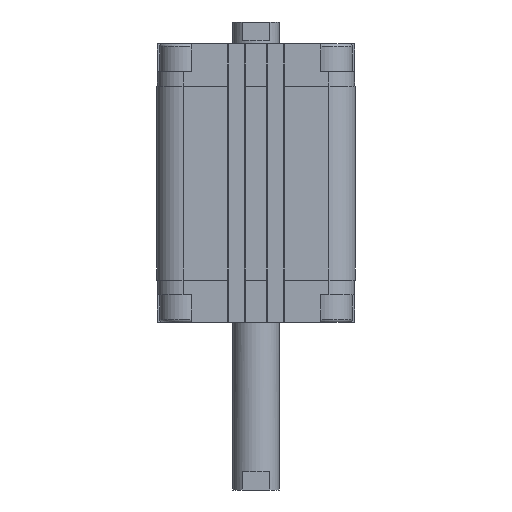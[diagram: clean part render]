
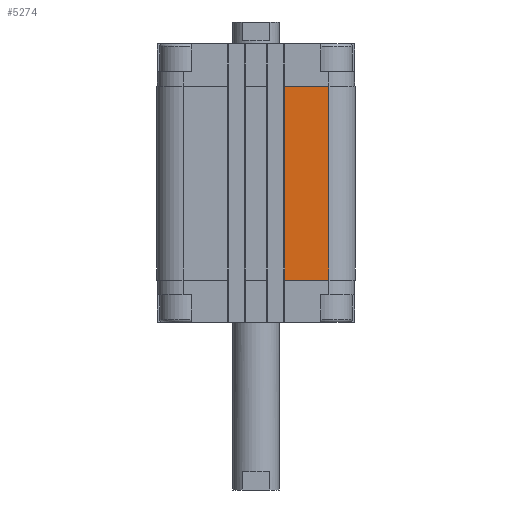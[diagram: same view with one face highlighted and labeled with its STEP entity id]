
A CAD part, front view. The second image highlights one B-rep face of the part: STEP entity #5274.
In plain terms, the highlighted planar face has unit normal (0, -1, 0).
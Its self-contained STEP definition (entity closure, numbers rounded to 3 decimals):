
#657 = CARTESIAN_POINT ( 'NONE',  ( 25., -34., -14.5 ) ) ;
#897 = CARTESIAN_POINT ( 'NONE',  ( 9.85, -34., -81. ) ) ;
#1587 = VECTOR ( 'NONE', #15210, 1000. ) ;
#2046 = VERTEX_POINT ( 'NONE', #2880 ) ;
#2671 = VERTEX_POINT ( 'NONE', #11086 ) ;
#2686 = VERTEX_POINT ( 'NONE', #657 ) ;
#2880 = CARTESIAN_POINT ( 'NONE',  ( 25., -34., -81. ) ) ;
#3605 = CARTESIAN_POINT ( 'NONE',  ( 9.85, -34., -14.5 ) ) ;
#3973 = LINE ( 'NONE', #14406, #16133 ) ;
#4629 = VECTOR ( 'NONE', #16882, 1000. ) ;
#5274 = ADVANCED_FACE ( 'NONE', ( #15114 ), #17277, .T. ) ;
#6049 = ORIENTED_EDGE ( 'NONE', *, *, #20614, .F. ) ;
#6903 = CARTESIAN_POINT ( 'NONE',  ( 25., -34., -81. ) ) ;
#8658 = ORIENTED_EDGE ( 'NONE', *, *, #17424, .T. ) ;
#10181 = CARTESIAN_POINT ( 'NONE',  ( 9.85, -34., -81. ) ) ;
#10651 = ORIENTED_EDGE ( 'NONE', *, *, #13719, .F. ) ;
#11086 = CARTESIAN_POINT ( 'NONE',  ( 9.85, -34., -81. ) ) ;
#11962 = DIRECTION ( 'NONE',  ( 0., 0., 1. ) ) ;
#13719 = EDGE_CURVE ( 'NONE', #20981, #2686, #3973, .T. ) ;
#14023 = ORIENTED_EDGE ( 'NONE', *, *, #15385, .T. ) ;
#14406 = CARTESIAN_POINT ( 'NONE',  ( 9.85, -34., -14.5 ) ) ;
#14718 = VECTOR ( 'NONE', #11962, 1000. ) ;
#14903 = AXIS2_PLACEMENT_3D ( 'NONE', #10181, #17393, #22421 ) ;
#14973 = EDGE_LOOP ( 'NONE', ( #10651, #6049, #14023, #8658 ) ) ;
#15114 = FACE_OUTER_BOUND ( 'NONE', #14973, .T. ) ;
#15210 = DIRECTION ( 'NONE',  ( 1., 0., 0. ) ) ;
#15385 = EDGE_CURVE ( 'NONE', #2671, #2046, #16691, .T. ) ;
#16133 = VECTOR ( 'NONE', #17931, 1000. ) ;
#16691 = LINE ( 'NONE', #897, #1587 ) ;
#16882 = DIRECTION ( 'NONE',  ( 0., 0., 1. ) ) ;
#17277 = PLANE ( 'NONE',  #14903 ) ;
#17393 = DIRECTION ( 'NONE',  ( 0., -1., 0. ) ) ;
#17424 = EDGE_CURVE ( 'NONE', #2046, #2686, #22575, .T. ) ;
#17931 = DIRECTION ( 'NONE',  ( 1., 0., 0. ) ) ;
#18483 = LINE ( 'NONE', #22145, #4629 ) ;
#20614 = EDGE_CURVE ( 'NONE', #2671, #20981, #18483, .T. ) ;
#20981 = VERTEX_POINT ( 'NONE', #3605 ) ;
#22145 = CARTESIAN_POINT ( 'NONE',  ( 9.85, -34., -81. ) ) ;
#22421 = DIRECTION ( 'NONE',  ( -1., 0., 0. ) ) ;
#22575 = LINE ( 'NONE', #6903, #14718 ) ;
